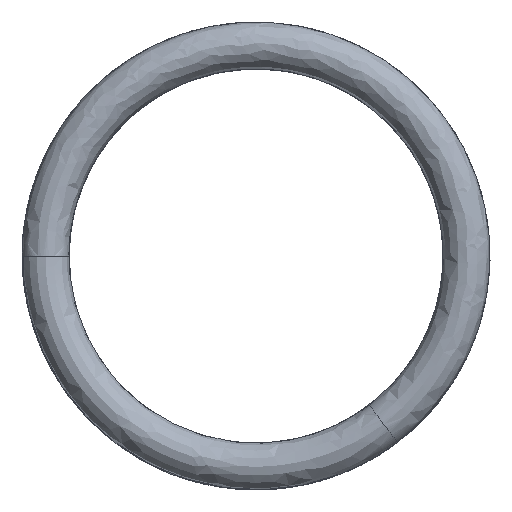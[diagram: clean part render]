
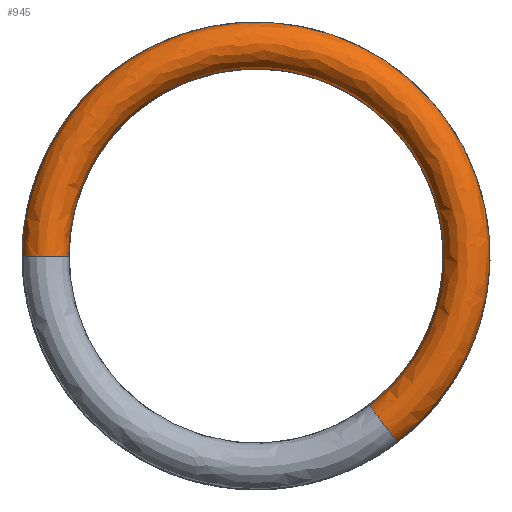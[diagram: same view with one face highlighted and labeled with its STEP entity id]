
A CAD part, front view. The second image highlights one B-rep face of the part: STEP entity #945.
In plain terms, the highlighted free-form (B-spline) face has degree [3, 3] with [7, 11] control points.
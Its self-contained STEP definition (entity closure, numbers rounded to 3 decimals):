
#321=CARTESIAN_POINT('',(-1.2,0.,
0.));
#327=CARTESIAN_POINT('',(-1.5,0.,
0.));
#329=CARTESIAN_POINT('',(-1.5,0.,
0.));
#330=CARTESIAN_POINT('',(-1.5,-0.075,
0.));
#331=CARTESIAN_POINT('',(-1.35,-0.225,
0.));
#332=CARTESIAN_POINT('',(-1.2,-0.075,
0.));
#333=CARTESIAN_POINT('',(-1.2,0.,
0.));
#335=CARTESIAN_POINT('',(0.907,0.194,
-1.194));
#336=CARTESIAN_POINT('',(1.084,0.187,-1.059));
#337=CARTESIAN_POINT('',(1.406,0.171,
-0.677));
#338=CARTESIAN_POINT('',(1.569,0.147,0.084));
#339=CARTESIAN_POINT('',(1.313,0.122,0.863));
#340=CARTESIAN_POINT('',(0.699,0.097,1.407));
#341=CARTESIAN_POINT('',(-0.106,0.072,
1.568));
#342=CARTESIAN_POINT('',(-0.882,0.047,
1.301));
#343=CARTESIAN_POINT('',(-1.389,0.023,
0.711));
#344=CARTESIAN_POINT('',(-1.5,0.007,
0.223));
#345=CARTESIAN_POINT('',(-1.5,0.,
0.));
#347=CARTESIAN_POINT('',(0.725,0.194,
-0.956));
#348=CARTESIAN_POINT('',(0.868,0.187,
-0.848));
#349=CARTESIAN_POINT('',(1.125,0.171,
-0.542));
#350=CARTESIAN_POINT('',(1.255,0.147,0.067));
#351=CARTESIAN_POINT('',(1.05,0.122,0.691));
#352=CARTESIAN_POINT('',(0.559,0.097,1.126));
#353=CARTESIAN_POINT('',(-0.085,0.072,
1.254));
#354=CARTESIAN_POINT('',(-0.705,0.047,
1.041));
#355=CARTESIAN_POINT('',(-1.112,0.023,
0.569));
#356=CARTESIAN_POINT('',(-1.2,0.007,
0.179));
#357=CARTESIAN_POINT('',(-1.2,0.,
0.));
#359=CARTESIAN_POINT('',(0.725,0.194,
-0.956));
#360=CARTESIAN_POINT('',(0.725,0.119,
-0.956));
#361=CARTESIAN_POINT('',(0.816,-0.031,
-1.075));
#362=CARTESIAN_POINT('',(0.907,0.119,
-1.194));
#363=CARTESIAN_POINT('',(0.907,0.194,
-1.194));
#373=CARTESIAN_POINT('',(0.907,0.194,
-1.194));
#733=VERTEX_POINT('',#321);
#734=VERTEX_POINT('',#327);
#735=VERTEX_POINT('',#347);
#736=VERTEX_POINT('',#373);
#860=CARTESIAN_POINT('',(-1.495,0.027,
-0.061));
#861=CARTESIAN_POINT('',(-1.505,0.035,
0.182));
#862=CARTESIAN_POINT('',(-1.4,0.051,
0.693));
#863=CARTESIAN_POINT('',(-0.879,0.076,
1.298));
#864=CARTESIAN_POINT('',(-0.106,0.101,
1.564));
#865=CARTESIAN_POINT('',(0.697,0.126,1.404));
#866=CARTESIAN_POINT('',(1.31,0.151,0.861));
#867=CARTESIAN_POINT('',(1.565,0.177,0.084));
#868=CARTESIAN_POINT('',(1.399,0.201,
-0.696));
#869=CARTESIAN_POINT('',(1.055,0.217,-1.088));
#870=CARTESIAN_POINT('',(0.856,0.225,
-1.228));
#871=CARTESIAN_POINT('',(-1.497,0.018,
-0.061));
#872=CARTESIAN_POINT('',(-1.507,0.025,
0.182));
#873=CARTESIAN_POINT('',(-1.402,0.042,
0.694));
#874=CARTESIAN_POINT('',(-0.881,0.066,
1.3));
#875=CARTESIAN_POINT('',(-0.106,0.091,
1.566));
#876=CARTESIAN_POINT('',(0.698,0.117,1.406));
#877=CARTESIAN_POINT('',(1.312,0.142,0.863));
#878=CARTESIAN_POINT('',(1.568,0.167,0.084));
#879=CARTESIAN_POINT('',(1.401,0.192,
-0.697));
#880=CARTESIAN_POINT('',(1.057,0.208,-1.09));
#881=CARTESIAN_POINT('',(0.857,0.216,
-1.23));
#882=CARTESIAN_POINT('',(-1.509,-0.067,
-0.061));
#883=CARTESIAN_POINT('',(-1.518,-0.059,
0.184));
#884=CARTESIAN_POINT('',(-1.412,-0.043,
0.7));
#885=CARTESIAN_POINT('',(-0.887,-0.019,
1.309));
#886=CARTESIAN_POINT('',(-0.107,0.007,
1.578));
#887=CARTESIAN_POINT('',(0.703,0.032,1.417));
#888=CARTESIAN_POINT('',(1.321,0.057,0.869));
#889=CARTESIAN_POINT('',(1.579,0.082,0.085));
#890=CARTESIAN_POINT('',(1.411,0.107,
-0.702));
#891=CARTESIAN_POINT('',(1.064,0.123,-1.098));
#892=CARTESIAN_POINT('',(0.863,0.131,
-1.239));
#893=CARTESIAN_POINT('',(-1.349,-0.227,
-0.055));
#894=CARTESIAN_POINT('',(-1.358,-0.219,
0.164));
#895=CARTESIAN_POINT('',(-1.263,-0.203,
0.626));
#896=CARTESIAN_POINT('',(-0.793,-0.178,1.171));
#897=CARTESIAN_POINT('',(-0.095,-0.153,1.411));
#898=CARTESIAN_POINT('',(0.629,-0.128,1.267));
#899=CARTESIAN_POINT('',(1.182,-0.103,0.777));
#900=CARTESIAN_POINT('',(1.412,-0.078,0.076));
#901=CARTESIAN_POINT('',(1.262,-0.053,
-0.628));
#902=CARTESIAN_POINT('',(0.952,-0.037,
-0.982));
#903=CARTESIAN_POINT('',(0.772,-0.029,
-1.108));
#904=CARTESIAN_POINT('',(-1.189,-0.067,
-0.048));
#905=CARTESIAN_POINT('',(-1.197,-0.059,
0.145));
#906=CARTESIAN_POINT('',(-1.113,-0.043,
0.551));
#907=CARTESIAN_POINT('',(-0.699,-0.018,
1.032));
#908=CARTESIAN_POINT('',(-0.084,0.007,
1.244));
#909=CARTESIAN_POINT('',(0.554,0.032,1.117));
#910=CARTESIAN_POINT('',(1.041,0.057,0.685));
#911=CARTESIAN_POINT('',(1.245,0.083,0.067));
#912=CARTESIAN_POINT('',(1.112,0.107,
-0.553));
#913=CARTESIAN_POINT('',(0.839,0.123,
-0.866));
#914=CARTESIAN_POINT('',(0.68,0.131,
-0.976));
#915=CARTESIAN_POINT('',(-1.2,0.018,
-0.049));
#916=CARTESIAN_POINT('',(-1.208,0.026,
0.146));
#917=CARTESIAN_POINT('',(-1.124,0.042,
0.557));
#918=CARTESIAN_POINT('',(-0.706,0.067,
1.042));
#919=CARTESIAN_POINT('',(-0.085,0.092,
1.256));
#920=CARTESIAN_POINT('',(0.56,0.117,1.127));
#921=CARTESIAN_POINT('',(1.051,0.142,0.692));
#922=CARTESIAN_POINT('',(1.257,0.168,0.067));
#923=CARTESIAN_POINT('',(1.123,0.192,
-0.559));
#924=CARTESIAN_POINT('',(0.847,0.208,
-0.874));
#925=CARTESIAN_POINT('',(0.687,0.216,
-0.986));
#926=CARTESIAN_POINT('',(-1.203,0.028,
-0.049));
#927=CARTESIAN_POINT('',(-1.211,0.036,
0.147));
#928=CARTESIAN_POINT('',(-1.126,0.052,
0.558));
#929=CARTESIAN_POINT('',(-0.708,0.077,
1.044));
#930=CARTESIAN_POINT('',(-0.085,0.102,
1.258));
#931=CARTESIAN_POINT('',(0.561,0.127,1.13));
#932=CARTESIAN_POINT('',(1.054,0.152,0.693));
#933=CARTESIAN_POINT('',(1.259,0.177,0.068));
#934=CARTESIAN_POINT('',(1.125,0.202,
-0.56));
#935=CARTESIAN_POINT('',(0.849,0.218,
-0.876));
#936=CARTESIAN_POINT('',(0.688,0.226,
-0.988));
#937=B_SPLINE_SURFACE_WITH_KNOTS('',3,3,((#860,#861,#862,#863,#864,#865,#866,
#867,#868,#869,#870),(#871,#872,#873,#874,#875,#876,#877,#878,#879,#880,#881),(
#882,#883,#884,#885,#886,#887,#888,#889,#890,#891,#892),(#893,#894,#895,#896,
#897,#898,#899,#900,#901,#902,#903),(#904,#905,#906,#907,#908,#909,#910,#911,
#912,#913,#914),(#915,#916,#917,#918,#919,#920,#921,#922,#923,#924,#925),(#926,
#927,#928,#929,#930,#931,#932,#933,#934,#935,#936)),.UNSPECIFIED.,.F.,.F.,.F.,
(4,1,1,1,4),(4,1,1,1,1,1,1,1,4),(0.467,0.5,0.75,1.,
1.034),(-0.01,0.11,0.24,0.37,0.5,0.63,0.76,
0.89,1.01),.UNSPECIFIED.);
#938=ORIENTED_EDGE('',*,*,#756,.F.);
#939=ORIENTED_EDGE('',*,*,#855,.F.);
#941=ORIENTED_EDGE('',*,*,#940,.F.);
#942=ORIENTED_EDGE('',*,*,#851,.T.);
#943=EDGE_LOOP('',(#938,#939,#941,#942));
#944=FACE_OUTER_BOUND('',#943,.F.);
#945=ADVANCED_FACE('',(#944),#937,.T.);
#334=B_SPLINE_CURVE_WITH_KNOTS('',3,(#329,#330,#331,#332,#333),.UNSPECIFIED.,
.F.,.F.,(4,1,4),(0.,0.5,1.),.UNSPECIFIED.);
#346=B_SPLINE_CURVE_WITH_KNOTS('',3,(#335,#336,#337,#338,#339,#340,#341,#342,
#343,#344,#345),.UNSPECIFIED.,.F.,.F.,(4,1,1,1,1,1,1,1,4),(0.,
0.11,0.24,0.37,0.5,
0.63,0.76,0.89,1.),.UNSPECIFIED.);
#358=B_SPLINE_CURVE_WITH_KNOTS('',3,(#347,#348,#349,#350,#351,#352,#353,#354,
#355,#356,#357),.UNSPECIFIED.,.F.,.F.,(4,1,1,1,1,1,1,1,4),(0.,
0.11,0.24,0.37,0.5,
0.63,0.76,0.89,1.),.UNSPECIFIED.);
#364=B_SPLINE_CURVE_WITH_KNOTS('',3,(#359,#360,#361,#362,#363),.UNSPECIFIED.,
.F.,.F.,(4,1,4),(0.,0.5,1.),.UNSPECIFIED.);
#756=EDGE_CURVE('',#734,#733,#334,.T.);
#851=EDGE_CURVE('',#735,#733,#358,.T.);
#855=EDGE_CURVE('',#736,#734,#346,.T.);
#940=EDGE_CURVE('',#735,#736,#364,.T.);
